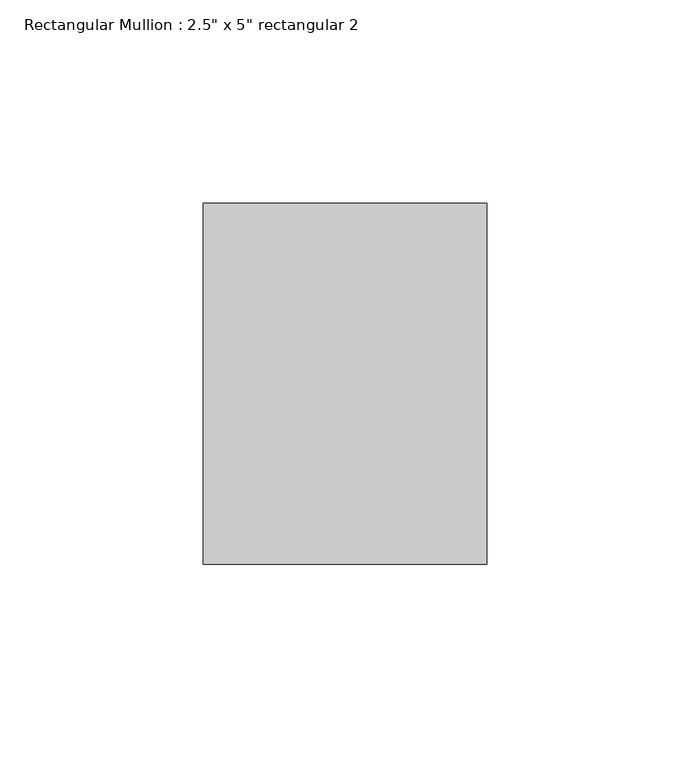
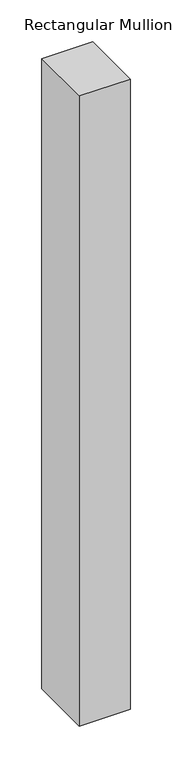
"""IFC4 building model written with IfcOpenShell, lengths in millimetres: member geometry."""

from ifc_helpers import new_model, si_unit, frame, origin, place, context, project, spatial, polyline, outline, extrude, source, transform, mapped, element, save


def member_16dd25dd(model_context):
    return source(origin(), model_context, "Body", "SweptSolid", [
        extrude(outline(polyline([(0.0, 44.45), (0.0, -44.45), (-69.85, -44.45), (-69.85, 44.45), (0.0, 44.45)])), frame((0.0, 0.0, -916.7488049), z_axis=(0.0, 0.0, 1.0), x_axis=(1.0, 0.0, 0.0)), (0.0, 0.0, 1.0), 916.7488049),
    ])


if __name__ == "__main__":
    model = new_model("IFC4")
    model_context = context("Model", 3, world=origin())
    ifc_project = project(units=[si_unit("LENGTHUNIT", "METRE", prefix="MILLI")], contexts=[model_context])
    site = spatial("IfcSite", under=ifc_project)
    building = spatial("IfcBuilding", under=site)
    placement = place(None, origin())
    member_shape = member_16dd25dd(model_context)
    element("IfcMember", 1, ObjectType="Rectangular Mullion : 2.5\" x 5\" rectangular 2", at=placement, inside=building, context=model_context, shape_type="MappedRepresentation", body=[
        mapped(member_shape, transform((0.0, 0.0, 0.0), x_axis=(1.0, 0.0, 0.0), y_axis=(0.0, 1.0, 0.0), z_axis=(0.0, 0.0, 1.0))),
    ])
    save(model, "model.ifc")
